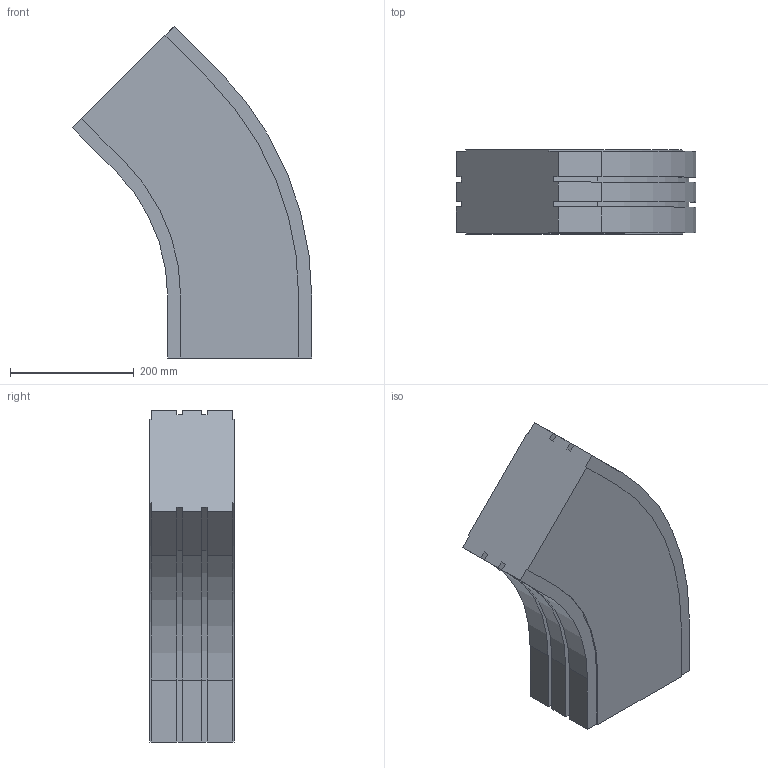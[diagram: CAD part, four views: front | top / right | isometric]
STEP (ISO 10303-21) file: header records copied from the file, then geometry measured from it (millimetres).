
FILE_DESCRIPTION (( 'STEP AP214' ), '1' );
FILE_NAME ('02.150H45.230.N FS-MTC-150 Bocht horizontaal 45°.STEP', '2013-03-29T11:12:49', ( 'Gebruiker' ), ( '' ), 'SwSTEP 2.0', 'SolidWorks 2012', '' );
FILE_SCHEMA (( 'AUTOMOTIVE_DESIGN' ));
Length unit declared in the file: millimetre
Products named in the file (1): 02.150H45.230.N FS-MTC-150 Bocht horizontaal 45°
Bounding box: 386.32 x 136 x 535.75 mm (x, y, z)
Volume: 15957447 mm3; surface area: 486253.4 mm2
Topology: 1 solids, 1 shells, 58 faces, 168 edges, 112 vertices
Faces by surface type: plane 44, cylinder 14
Entity records: 1934 total; most frequent: CARTESIAN_POINT 339, ORIENTED_EDGE 336, DIRECTION 314, EDGE_CURVE 168, LINE 140, VECTOR 140, VERTEX_POINT 112, AXIS2_PLACEMENT_3D 87
